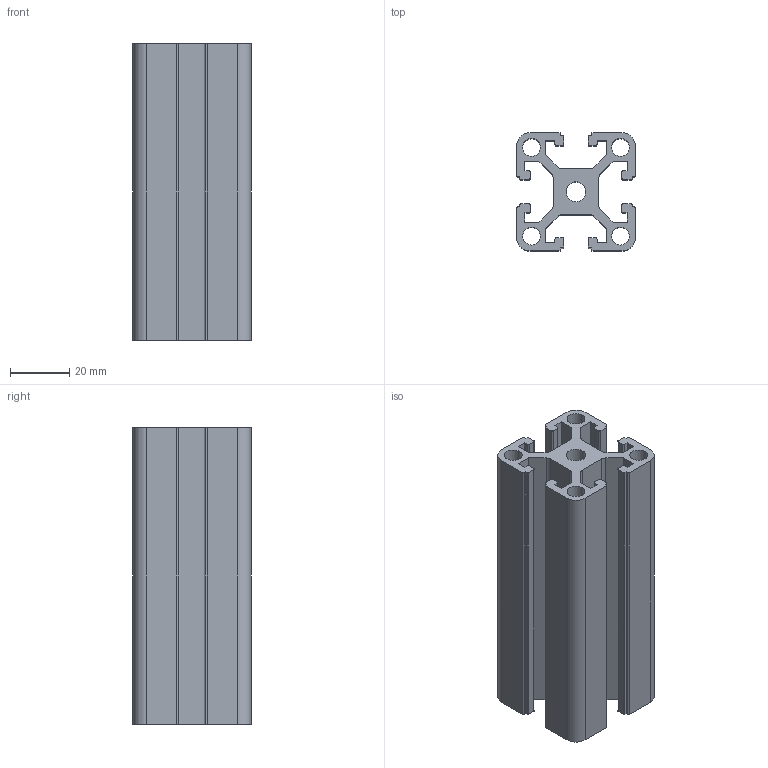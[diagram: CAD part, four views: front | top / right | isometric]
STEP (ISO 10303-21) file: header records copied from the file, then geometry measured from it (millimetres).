
FILE_DESCRIPTION((''),'2;1');
FILE_NAME('E:\catalogue and flyer\Profile catalogue 2015\profile-step file,31MAr16\PS4040-8.stp','2016-03-31T13:49:47',('h029'),(''),'Autodesk Inventor 11','Autodesk Inventor 11','');
FILE_SCHEMA(('AUTOMOTIVE_DESIGN { 1 0 10303 214 1 1 1 1 }'));
Length unit declared in the file: millimetre
Products named in the file (1): ps4040-8
Bounding box: 40 x 40 x 100 mm (x, y, z)
Volume: 68587.4 mm3; surface area: 45930.3 mm2
Topology: 1 solids, 1 shells, 127 faces, 375 edges, 250 vertices
Faces by surface type: plane 78, cylinder 49
Full cylindrical faces by diameter (mm): 6 x4, 6.7 x1
Entity records: 4265 total; most frequent: CARTESIAN_POINT 748, ORIENTED_EDGE 740, DIRECTION 724, EDGE_CURVE 370, VECTOR 272, LINE 272, VERTEX_POINT 250, AXIS2_PLACEMENT_3D 226
